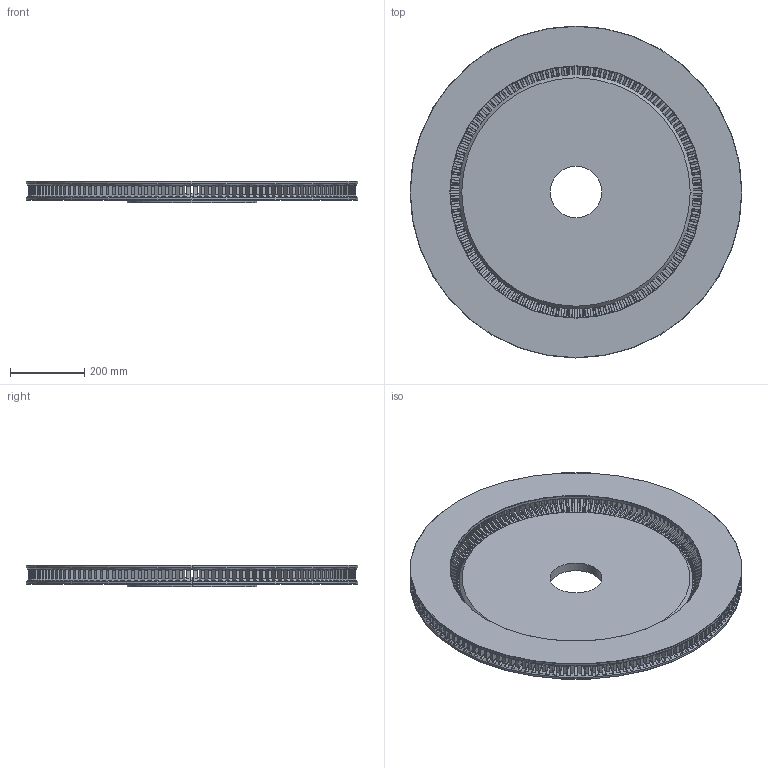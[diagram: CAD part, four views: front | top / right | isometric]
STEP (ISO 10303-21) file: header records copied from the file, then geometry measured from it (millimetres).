
FILE_DESCRIPTION (( 'STEP AP214' ), '1' );
FILE_NAME ('2-4-35.STEP', '2022-07-19T20:02:23', ( '' ), ( '' ), 'SwSTEP 2.0', 'SolidWorks 2021', '' );
FILE_SCHEMA (( 'AUTOMOTIVE_DESIGN' ));
Length unit declared in the file: inch
Products named in the file (1): 2-4-35
Bounding box: 892.81 x 892.81 x 57.15 mm (x, y, z)
Volume: 14838240 mm3; surface area: 2593834.4 mm2
Topology: 1 solids, 1 shells, 1612 faces, 5388 edges, 3492 vertices
Faces by surface type: cylinder 874, plane 580, cone 158
Entity records: 71432 total; most frequent: CARTESIAN_POINT 27549, ORIENTED_EDGE 10776, DIRECTION 7642, EDGE_CURVE 5388, VERTEX_POINT 3492, AXIS2_PLACEMENT_3D 2945, B_SPLINE_CURVE_WITH_KNOTS 2304, VECTOR 1752
